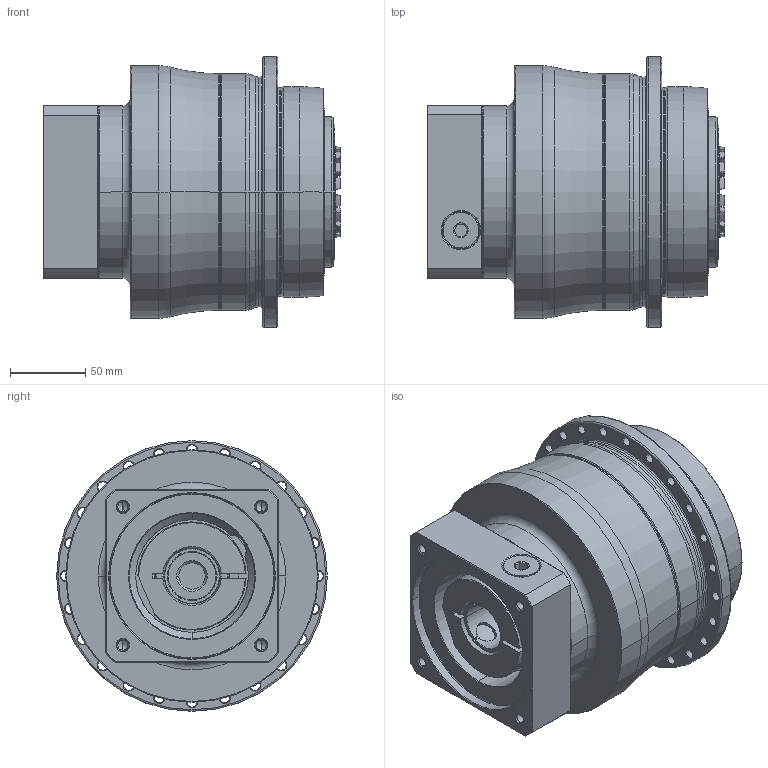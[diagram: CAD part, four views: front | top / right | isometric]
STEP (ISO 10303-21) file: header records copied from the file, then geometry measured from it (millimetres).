
FILE_DESCRIPTION((''),'2;1');
FILE_NAME('APC140_2ST_32-P0409710201_ASM','2018-06-28T',('d01226'),(''),'PRO/ENGINEER BY PARAMETRIC TECHNOLOGY CORPORATION, 2008410','PRO/ENGINEER BY PARAMETRIC TECHNOLOGY CORPORATION, 2008410','');
FILE_SCHEMA(('CONFIG_CONTROL_DESIGN'));
Length unit declared in the file: millimetre
Products named in the file (9): P0278501003; P03595D0103; P1317510301; P0503700010; P0912453001; P1211500001; P0409710201; 21711418017; APC140_2ST_32-P0409710201_ASM
Assembly tree (8 placements, depth 2):
  APC140_2ST_32-P0409710201_ASM
    P0278501003
    P03595D0103
    P1317510301
    P0503700010
    P0912453001
    P1211500001
    P0409710201
    21711418017
Bounding box: 198.1 x 180 x 180 mm (x, y, z)
Volume: 2897887.3 mm3; surface area: 327961 mm2
Topology: 9 solids, 19 shells, 677 faces, 1633 edges, 995 vertices
Faces by surface type: cone 223, cylinder 213, plane 122, torus 105, bspline 14
Entity records: 25122 total; most frequent: CARTESIAN_POINT 8902, DIRECTION 3627, ORIENTED_EDGE 3188, EDGE_CURVE 1615, AXIS2_PLACEMENT_3D 1575, VERTEX_POINT 995, CIRCLE 885, EDGE_LOOP 780
